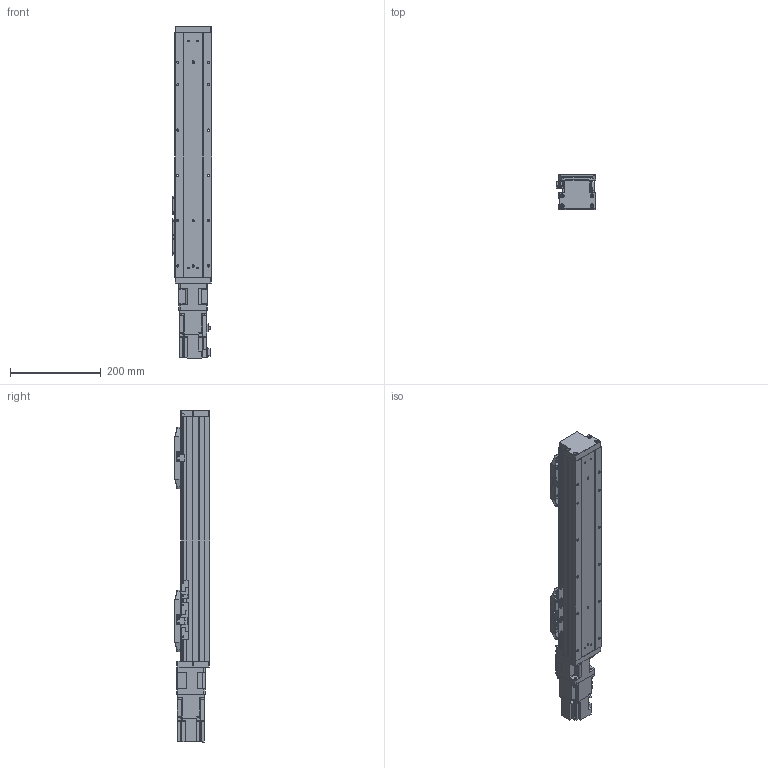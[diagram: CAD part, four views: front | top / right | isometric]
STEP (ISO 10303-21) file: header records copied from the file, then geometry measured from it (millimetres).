
FILE_DESCRIPTION (( 'STEP AP203' ), '1' );
FILE_NAME ('2.STEP', '2020-10-31T08:23:51', ( '' ), ( '' ), 'SwSTEP 2.0', 'SolidWorks 2016', '' );
FILE_SCHEMA (( 'CONFIG_CONTROL_DESIGN' ));
Length unit declared in the file: millimetre
Products named in the file (11): CTH8S-BC-HZ; CTH8S-BC-T20; CTH8S-BC-03; CTH8S-BC-07; CTH8S-BC-04; CTH8S-BC-02; CTH8S-BC-01; CTH8S-BC-05; 2; CTH8S-BC-06; CTH8S-BC-菁釱
Assembly tree (16 placements, depth 2):
  2
    CTH8S-BC-菁釱
    CTH8S-BC-01
    CTH8S-BC-02
    CTH8S-BC-03
    CTH8S-BC-04
    CTH8S-BC-05  x2
    CTH8S-BC-06  x3
    CTH8S-BC-07  x3
    CTH8S-BC-HZ  x2
    CTH8S-BC-T20
Bounding box: 87 x 78 x 733.5 mm (x, y, z)
Volume: 2899902.2 mm3; surface area: 484327.4 mm2
Topology: 36 solids, 36 shells, 2087 faces, 5564 edges, 3545 vertices
Faces by surface type: plane 1116, cylinder 597, cone 236, bspline 94, torus 36, sphere 8
Entity records: 46699 total; most frequent: CARTESIAN_POINT 11506, ORIENTED_EDGE 7260, DIRECTION 6664, EDGE_CURVE 3630, VERTEX_POINT 2359, LINE 2302, VECTOR 2302, AXIS2_PLACEMENT_3D 2181
